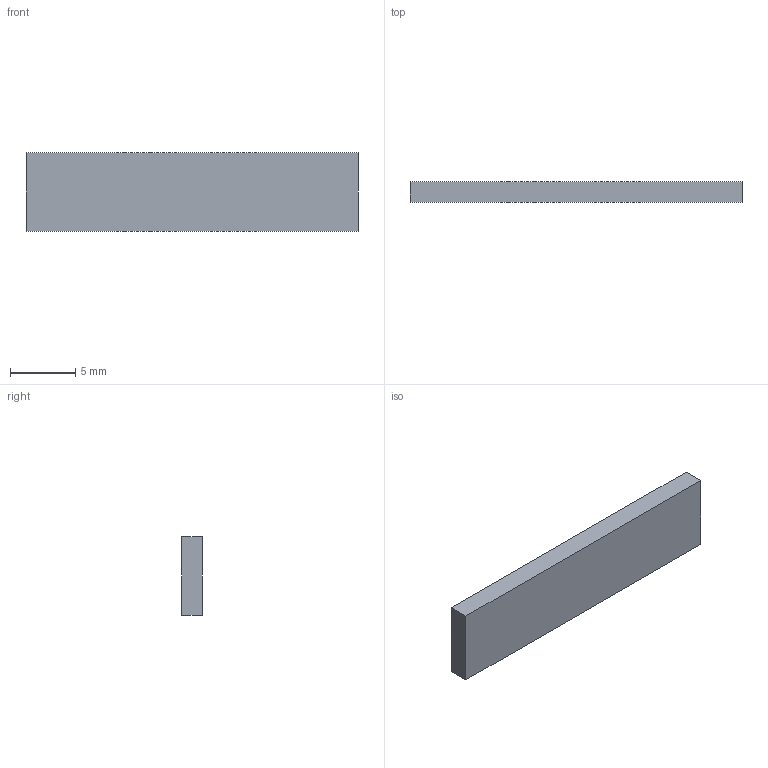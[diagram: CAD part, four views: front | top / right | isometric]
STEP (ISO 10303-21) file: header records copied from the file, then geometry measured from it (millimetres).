
FILE_DESCRIPTION(('STEP AP203'), '1');
FILE_NAME('ïëàñòèíêà ìåæäó ãðèôîì è ðåçîíàòîðîì', '', ('UNSPECIFIED'), ('UNSPECIFIED'), 'ASCON STEP Converter 1.3', 'ASCON Math Kernel', '');
FILE_SCHEMA(('CONFIG_CONTROL_DESIGN'));
Length unit declared in the file: millimetre
Bounding box: 25.5 x 1.59 x 6 mm (x, y, z)
Volume: 242.8 mm3; surface area: 406 mm2
Topology: 1 solids, 1 shells, 6 faces, 12 edges, 8 vertices
Faces by surface type: plane 6
Entity records: 248 total; most frequent: CARTESIAN_POINT 27, DIRECTION 26, ORIENTED_EDGE 24, EDGE_CURVE 12, LINE 12, VECTOR 12, VERTEX_POINT 8, AXIS2_PLACEMENT_3D 7
